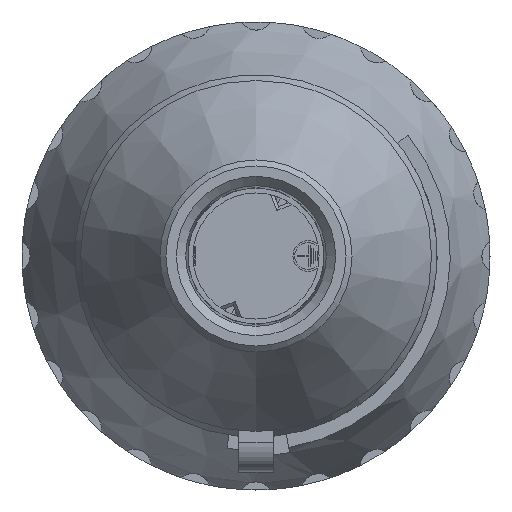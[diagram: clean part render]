
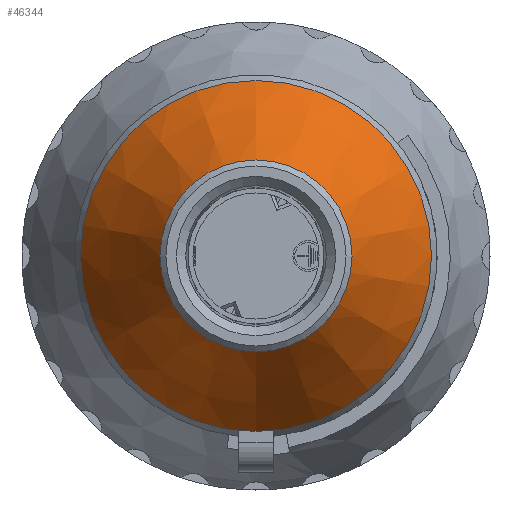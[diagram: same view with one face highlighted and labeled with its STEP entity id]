
A CAD part, left-side view. The second image highlights one B-rep face of the part: STEP entity #46344.
In plain terms, the highlighted conical face has half-angle 31.088 degrees and reference radius 22.625 mm.
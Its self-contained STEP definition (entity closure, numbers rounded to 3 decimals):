
#46290=CARTESIAN_POINT('',(-140.642,0.,29.25));
#46291=VERTEX_POINT('',#46290);
#46292=CARTESIAN_POINT('',(-140.642,0.,0.));
#46293=DIRECTION('',(-1.0,0.0,0.0));
#46294=DIRECTION('',(0.0,0.0,1.0));
#46295=AXIS2_PLACEMENT_3D('',#46292,#46293,#46294);
#46296=CIRCLE('',#46295,29.25);
#46297=EDGE_CURVE('',#46291,#46291,#46296,.T.);
#46325=CARTESIAN_POINT('',(-151.63,0.,0.));
#46326=DIRECTION('',(1.0,0.,0.));
#46327=DIRECTION('',(0.0,0.0,1.0));
#46328=AXIS2_PLACEMENT_3D('',#46325,#46326,#46327);
#46329=CONICAL_SURFACE('',#46328,22.625,31.088);
#46330=CARTESIAN_POINT('',(-162.618,0.,16.));
#46331=VERTEX_POINT('',#46330);
#46332=CARTESIAN_POINT('',(-162.618,0.,0.));
#46333=DIRECTION('',(-1.0,0.0,0.0));
#46334=DIRECTION('',(0.0,1.0,0.0));
#46335=AXIS2_PLACEMENT_3D('',#46332,#46333,#46334);
#46336=CIRCLE('',#46335,16.0);
#46337=EDGE_CURVE('',#46331,#46331,#46336,.T.);
#46338=ORIENTED_EDGE('',*,*,#46337,.F.);
#46339=EDGE_LOOP('',(#46338));
#46340=FACE_OUTER_BOUND('',#46339,.T.);
#46341=ORIENTED_EDGE('',*,*,#46297,.T.);
#46342=EDGE_LOOP('',(#46341));
#46343=FACE_BOUND('',#46342,.T.);
#46344=ADVANCED_FACE('',(#46340,#46343),#46329,.T.);
